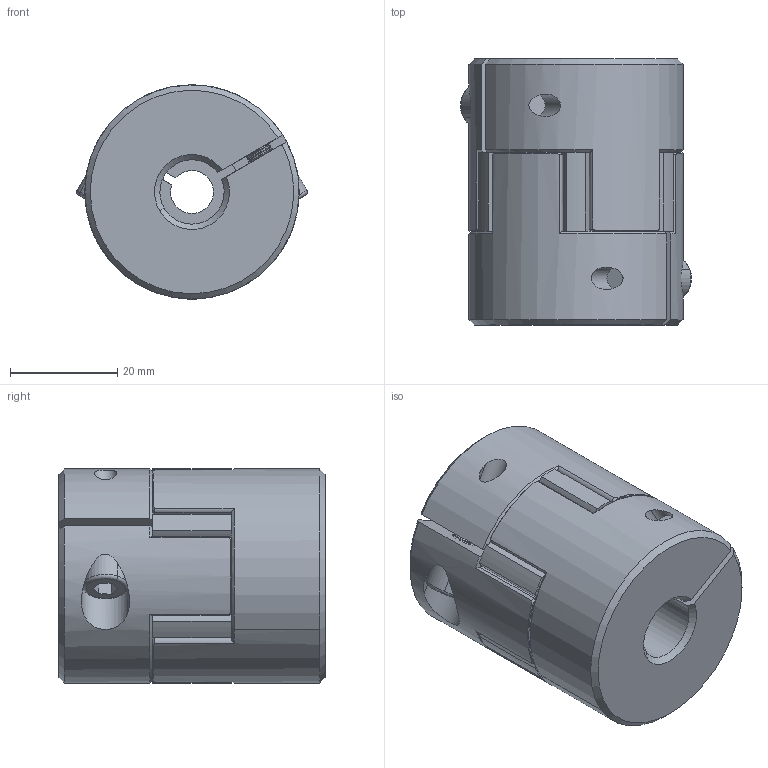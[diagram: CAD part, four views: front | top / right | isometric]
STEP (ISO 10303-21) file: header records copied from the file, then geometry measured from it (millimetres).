
FILE_DESCRIPTION (( 'STEP AP203' ), '1' );
FILE_NAME ('LF-B-D40L50-8-12.STEP', '2021-10-25T02:35:20', ( '' ), ( '' ), 'SwSTEP 2.0', 'SolidWorks 2018', '' );
FILE_SCHEMA (( 'CONFIG_CONTROL_DESIGN' ));
Length unit declared in the file: millimetre
Products named in the file (1): LF-B-D40L50-8-12
Bounding box: 43.11 x 49.7 x 40 mm (x, y, z)
Volume: 53980.6 mm3; surface area: 14644.8 mm2
Topology: 1 solids, 7 shells, 471 faces, 1117 edges, 662 vertices
Faces by surface type: cone 170, cylinder 169, plane 128, torus 4
Entity records: 13972 total; most frequent: CARTESIAN_POINT 2895, DIRECTION 2509, ORIENTED_EDGE 2226, EDGE_CURVE 1113, AXIS2_PLACEMENT_3D 1040, VERTEX_POINT 662, CIRCLE 568, EDGE_LOOP 487
